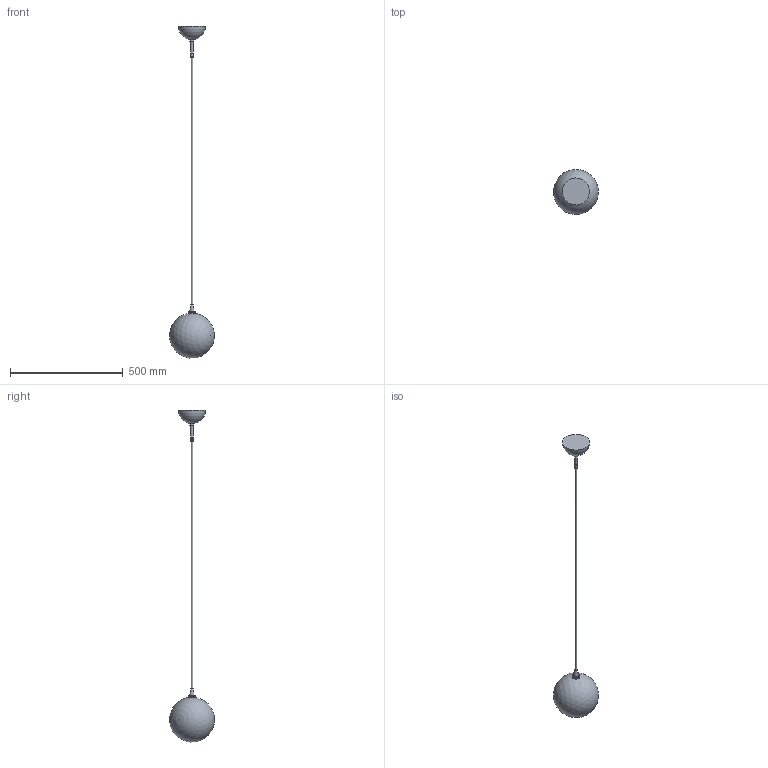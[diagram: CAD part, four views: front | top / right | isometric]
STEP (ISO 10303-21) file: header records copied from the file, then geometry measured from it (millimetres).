
FILE_DESCRIPTION(/* description */ (''),/* implementation_level */ '2;1');
FILE_NAME(/* name */ 'T:\B075 Glass Globe Pendant 200\Pliki bryłowe handlowe\B075 Glass Globe 200 3D files_na stronę\B075 Glass Globe 200.stp',/* time_stamp */ '2022-02-02T12:37:50+01:00',/* author */ ('Mariusz Awariusz'),/* organization */ (''),/* preprocessor_version */ 'ST-DEVELOPER v18.1',/* originating_system */ 'Autodesk Inventor 2022',/* authorisation */ '');
FILE_SCHEMA (('AUTOMOTIVE_DESIGN { 1 0 10303 214 3 1 1 }'));
Length unit declared in the file: millimetre
Products named in the file (1): Glass Globe Pendant 200 CE v3_na potrzeby plików 3D_2_korpusy bry
ło
Bounding box: 198.94 x 199.74 x 1474.22 mm (x, y, z)
Volume: 767629.4 mm3; surface area: 317002.6 mm2
Topology: 15 solids, 15 shells, 102 faces, 177 edges, 110 vertices
Faces by surface type: plane 39, cylinder 29, cone 26, torus 4, sphere 3, bspline 1
Full cylindrical faces by diameter (mm): 2.693 x3, 3 x3, 4 x2, 5.5 x3, 7 x1, 8.6 x2, 10 x3, 11 x1, 12.6 x1, 13 x3, 13.3 x1, 14 x1, 18 x1, 19.8 x1, 20 x1, 33 x1, 35 x1
Entity records: 2486 total; most frequent: DIRECTION 481, CARTESIAN_POINT 420, ORIENTED_EDGE 346, AXIS2_PLACEMENT_3D 210, EDGE_CURVE 173, EDGE_LOOP 113, VERTEX_POINT 110, CIRCLE 108
